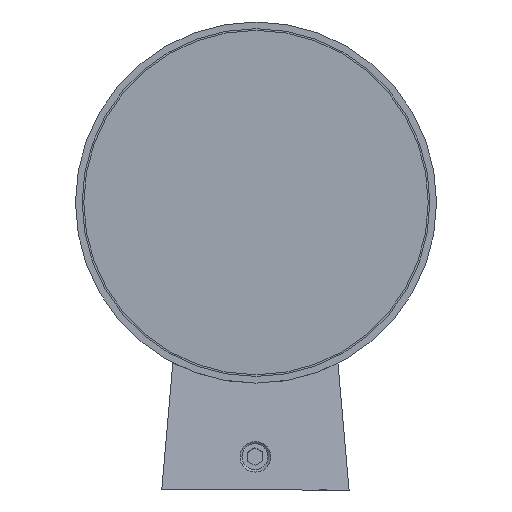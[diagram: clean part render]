
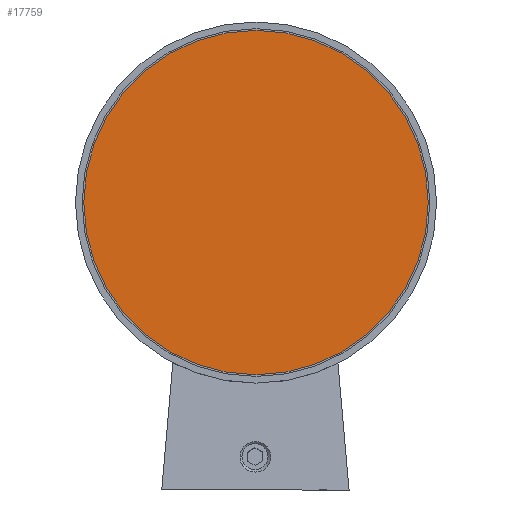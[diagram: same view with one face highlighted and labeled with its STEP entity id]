
A CAD part, front view. The second image highlights one B-rep face of the part: STEP entity #17759.
In plain terms, the highlighted planar face has unit normal (0, -1, 0).
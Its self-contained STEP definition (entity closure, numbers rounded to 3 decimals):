
#1424 = DIRECTION ( 'NONE',  ( 0., 1., 0. ) ) ;
#2187 = EDGE_CURVE ( 'NONE', #8563, #8563, #7731, .T. ) ;
#2644 = DIRECTION ( 'NONE',  ( 0., 0., 1. ) ) ;
#2952 = PLANE ( 'NONE',  #3345 ) ;
#3124 = EDGE_LOOP ( 'NONE', ( #7756 ) ) ;
#3345 = AXIS2_PLACEMENT_3D ( 'NONE', #8620, #1424, #2644 ) ;
#4713 = CARTESIAN_POINT ( 'NONE',  ( 0., 0., 0. ) ) ;
#5499 = CARTESIAN_POINT ( 'NONE',  ( 0., 0., 51.5 ) ) ;
#7731 = CIRCLE ( 'NONE', #19515, 51.5 ) ;
#7756 = ORIENTED_EDGE ( 'NONE', *, *, #2187, .F. ) ;
#8559 = DIRECTION ( 'NONE',  ( 0., 1., 0. ) ) ;
#8563 = VERTEX_POINT ( 'NONE', #5499 ) ;
#8620 = CARTESIAN_POINT ( 'NONE',  ( 0., 0., 0. ) ) ;
#15016 = FACE_OUTER_BOUND ( 'NONE', #3124, .T. ) ;
#17569 = DIRECTION ( 'NONE',  ( 0., 0., 1. ) ) ;
#17759 = ADVANCED_FACE ( 'NONE', ( #15016 ), #2952, .F. ) ;
#19515 = AXIS2_PLACEMENT_3D ( 'NONE', #4713, #8559, #17569 ) ;
